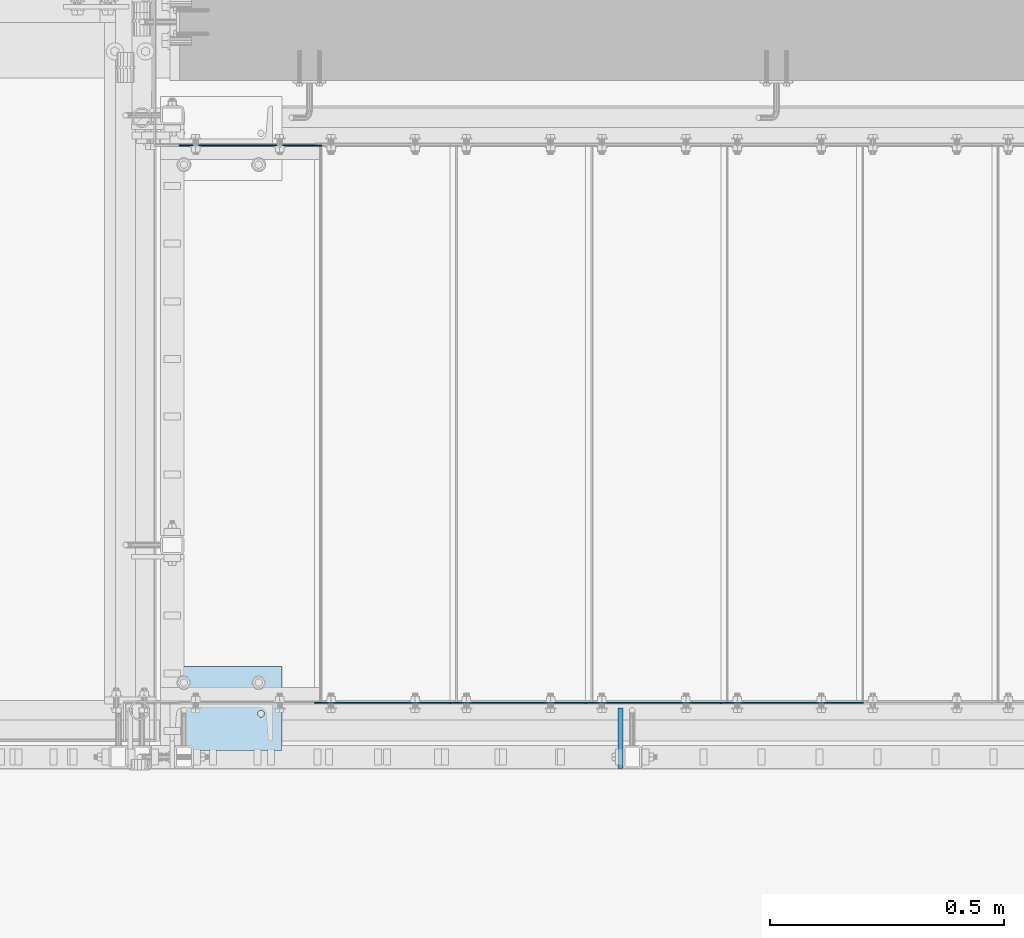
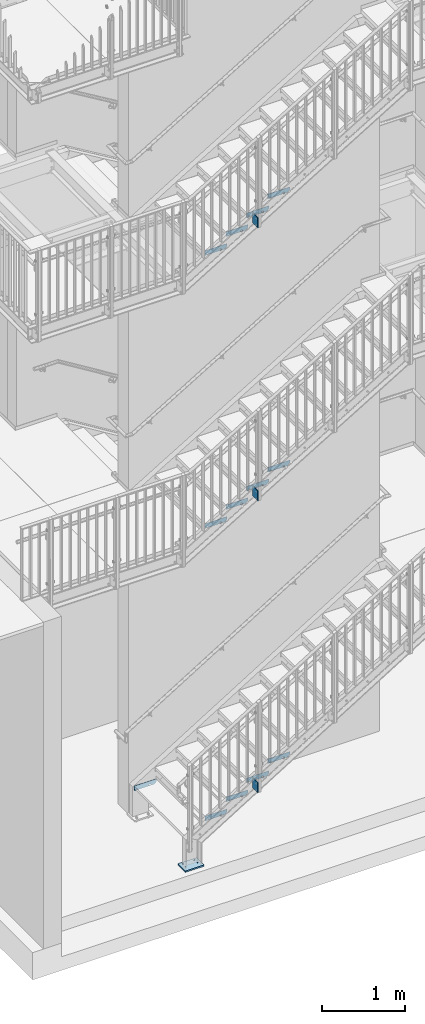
# One storey, part 53 of 410: 17 plates, 36 openings.
"""IFC2X3 building model written with IfcOpenShell, lengths in millimetres."""

from ifc_helpers import new_model, entity, si_unit, converted_unit, point, frame, frame_2d, origin, origin_with_axes, origin_2d_with_axis, place, context, project, spatial, polyline, circle_curve, line_curve, trimmed, segment, composite_curve, circle, outline, extrude, material, layer, layer_set, element, save


model = new_model("IFC2X3")

# Units and contexts
model_context = context("Model", 3, precision=1e-09, world=origin_with_axes())
ifc_project = project(units=[si_unit("LENGTHUNIT", "METRE", prefix="MILLI"), si_unit("AREAUNIT", "SQUARE_METRE"), si_unit("VOLUMEUNIT", "CUBIC_METRE"), converted_unit("PLANEANGLEUNIT", "DEGREE", entity("IfcPlaneAngleMeasure", 0.01745329), si_unit("PLANEANGLEUNIT", "RADIAN"), dimensions=[0, 0, 0, 0, 0, 0, 0])], contexts=[model_context])

# Site, building, storey
site_placement = place(None, origin_with_axes())
site = spatial("IfcSite", under=ifc_project, at=site_placement, Name="mKR Teilneubau & Sanierung BA1 - Ostfildern", CompositionType="ELEMENT")
building_placement = place(site_placement, origin_with_axes())
building = spatial("IfcBuilding", under=site, at=building_placement, Name="Struktur 1", CompositionType="ELEMENT")
storey_placement = place(building_placement, origin_with_axes())
storey = spatial("IfcBuildingStorey", under=building, at=storey_placement, Name="Default Storey", CompositionType="ELEMENT", Elevation=0.0)

# Plate, openings
ifc_material = material(Name="S235JR")
ifc_layer_1 = layer(ifc_material, 3.0)
ifc_layer_set_1 = layer_set([ifc_layer_1], Name="S235JR")
plate_1_placement = place(None, frame((-1415.0, 15522.999999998, 4175.0), z_axis=(0.0, -1.0, 0.0), x_axis=(0.0, 0.0, -1.0)))
plate_1 = element("IfcPlate", 1, at=plate_1_placement, inside=storey, material=ifc_layer_set_1, Name="Grate_Step#3", ObjectType="Grate_Step#3", context=model_context, shape_type="SweptSolid", body=[
    extrude(outline(polyline([(0.0, 0.0), (70.0, 0.0), (70.0, 275.0), (40.0, 305.0), (0.0, 305.0), (0.0, 0.0)])), origin_with_axes(), (0.0, 0.0, 1.0), 3.0),
])
opening_1_placement = place(plate_1_placement, frame((55.0, 215.0, -0.5), z_axis=(0.0, 0.0, 1.0), x_axis=(0.0, 1.0, 0.0)))
element("IfcOpeningElement", 2, at=opening_1_placement, cuts=plate_1, ObjectType="Opening", context=model_context, shape_type="SweptSolid", body=[
    extrude(outline(composite_curve([segment(trimmed(line_curve((-9.5, -7.001), (1.0, 0.0), 19.0), [point((-9.5, -7.001))], [point((9.5, -7.001))], True, "CARTESIAN"), True, "CONTINUOUS"), segment(trimmed(circle_curve(frame_2d((9.5, 0.0), x_axis=(1.0, 0.0)), 7.001), [point((9.5, -7.001))], [point((9.5, 7.001))], True, "CARTESIAN"), True, "CONTINUOUS"), segment(trimmed(line_curve((9.5, 7.001), (-1.0, 0.0), 19.0), [point((9.5, 7.001))], [point((-9.5, 7.001))], True, "CARTESIAN"), True, "CONTINUOUS"), segment(trimmed(circle_curve(frame_2d((-9.5, 0.0), x_axis=(1.0, 0.0)), 7.001), [point((-9.5, 7.001))], [point((-9.5, -7.001))], True, "CARTESIAN"), True, "CONTINUOUS")], self_intersect=False)), origin(), (0.0, 0.0, 1.0), 4.0),
])
opening_2_placement = place(plate_1_placement, frame((55.0, 35.0, -0.5), z_axis=(0.0, 0.0, 1.0), x_axis=(0.0, 1.0, 0.0)))
element("IfcOpeningElement", 3, at=opening_2_placement, cuts=plate_1, ObjectType="Opening", context=model_context, shape_type="SweptSolid", body=[
    extrude(circle(Radius=7.001, at=origin_2d_with_axis()), origin(), (0.0, 0.0, 1.0), 4.0),
])

plate_2_placement = place(None, frame((-1415.0, 15522.999999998, 173.9130435), z_axis=(0.0, -1.0, 0.0), x_axis=(0.0, 0.0, -1.0)))
plate_2 = element("IfcPlate", 4, at=plate_2_placement, inside=storey, material=ifc_layer_set_1, Name="Grate_Step#3", ObjectType="Grate_Step#3", context=model_context, shape_type="SweptSolid", body=[
    extrude(outline(polyline([(0.0, 0.0), (70.0, 0.0), (70.0, 275.0), (40.0, 305.0), (0.0, 305.0), (0.0, 0.0)])), origin_with_axes(), (0.0, 0.0, 1.0), 3.0),
])
opening_3_placement = place(plate_2_placement, frame((55.0, 215.0, -0.5), z_axis=(0.0, 0.0, 1.0), x_axis=(0.0, 1.0, 0.0)))
element("IfcOpeningElement", 5, at=opening_3_placement, cuts=plate_2, ObjectType="Opening", context=model_context, shape_type="SweptSolid", body=[
    extrude(outline(composite_curve([segment(trimmed(line_curve((-9.5, -7.001), (1.0, 0.0), 19.0), [point((-9.5, -7.001))], [point((9.5, -7.001))], True, "CARTESIAN"), True, "CONTINUOUS"), segment(trimmed(circle_curve(frame_2d((9.5, 0.0), x_axis=(1.0, 0.0)), 7.001), [point((9.5, -7.001))], [point((9.5, 7.001))], True, "CARTESIAN"), True, "CONTINUOUS"), segment(trimmed(line_curve((9.5, 7.001), (-1.0, 0.0), 19.0), [point((9.5, 7.001))], [point((-9.5, 7.001))], True, "CARTESIAN"), True, "CONTINUOUS"), segment(trimmed(circle_curve(frame_2d((-9.5, 0.0), x_axis=(1.0, 0.0)), 7.001), [point((-9.5, 7.001))], [point((-9.5, -7.001))], True, "CARTESIAN"), True, "CONTINUOUS")], self_intersect=False)), origin(), (0.0, 0.0, 1.0), 4.0),
])
opening_4_placement = place(plate_2_placement, frame((55.0, 35.0, -0.5), z_axis=(0.0, 0.0, 1.0), x_axis=(0.0, 1.0, 0.0)))
element("IfcOpeningElement", 6, at=opening_4_placement, cuts=plate_2, ObjectType="Opening", context=model_context, shape_type="SweptSolid", body=[
    extrude(circle(Radius=7.001, at=origin_2d_with_axis()), origin(), (0.0, 0.0, 1.0), 4.0),
])

plate_3_placement = place(None, frame((-1705.0, 16716.999999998, -4291.2), z_axis=(0.0, -1.0, 0.0), x_axis=(0.0, 0.0, -1.0)))
plate_3 = element("IfcPlate", 7, at=plate_3_placement, inside=storey, material=ifc_layer_set_1, Name="Grate_Step#2", ObjectType="Grate_Step#2", context=model_context, shape_type="SweptSolid", body=[
    extrude(outline(polyline([(0.0, 0.0), (70.0, 0.0), (70.0, 275.0), (40.0, 305.0), (0.0, 305.0), (0.0, 0.0)])), origin_with_axes(), (0.0, 0.0, 1.0), 3.0),
])
opening_5_placement = place(plate_3_placement, frame((55.0, 35.0, 3.5), z_axis=(0.0, 0.0, -1.0), x_axis=(0.0, 1.0, 0.0)))
element("IfcOpeningElement", 8, at=opening_5_placement, cuts=plate_3, ObjectType="Opening", context=model_context, shape_type="SweptSolid", body=[
    extrude(circle(Radius=7.001, at=origin_2d_with_axis()), origin(), (0.0, 0.0, 1.0), 4.0),
])
opening_6_placement = place(plate_3_placement, frame((55.0, 215.0, 3.5), z_axis=(0.0, 0.0, -1.0), x_axis=(0.0, 1.0, 0.0)))
element("IfcOpeningElement", 9, at=opening_6_placement, cuts=plate_3, ObjectType="Opening", context=model_context, shape_type="SweptSolid", body=[
    extrude(outline(composite_curve([segment(trimmed(line_curve((-9.5, -7.001), (1.0, 0.0), 19.0), [point((-9.5, -7.001))], [point((9.5, -7.001))], True, "CARTESIAN"), True, "CONTINUOUS"), segment(trimmed(circle_curve(frame_2d((9.5, 0.0), x_axis=(1.0, 0.0)), 7.001), [point((9.5, -7.001))], [point((9.5, 7.001))], True, "CARTESIAN"), True, "CONTINUOUS"), segment(trimmed(line_curve((9.5, 7.001), (-1.0, 0.0), 19.0), [point((9.5, 7.001))], [point((-9.5, 7.001))], True, "CARTESIAN"), True, "CONTINUOUS"), segment(trimmed(circle_curve(frame_2d((-9.5, 0.0), x_axis=(1.0, 0.0)), 7.001), [point((-9.5, 7.001))], [point((-9.5, -7.001))], True, "CARTESIAN"), True, "CONTINUOUS")], self_intersect=False)), origin(), (0.0, 0.0, 1.0), 4.0),
])

plate_4_placement = place(None, frame((-1415.0, 15522.999999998, -4112.4), z_axis=(0.0, -1.0, 0.0), x_axis=(0.0, 0.0, -1.0)))
plate_4 = element("IfcPlate", 10, at=plate_4_placement, inside=storey, material=ifc_layer_set_1, Name="Grate_Step#3", ObjectType="Grate_Step#3", context=model_context, shape_type="SweptSolid", body=[
    extrude(outline(polyline([(0.0, 0.0), (70.0, 0.0), (70.0, 275.0), (40.0, 305.0), (0.0, 305.0), (0.0, 0.0)])), origin_with_axes(), (0.0, 0.0, 1.0), 3.0),
])
opening_7_placement = place(plate_4_placement, frame((55.0, 215.0, -0.5), z_axis=(0.0, 0.0, 1.0), x_axis=(0.0, 1.0, 0.0)))
element("IfcOpeningElement", 11, at=opening_7_placement, cuts=plate_4, ObjectType="Opening", context=model_context, shape_type="SweptSolid", body=[
    extrude(outline(composite_curve([segment(trimmed(line_curve((-9.5, -7.001), (1.0, 0.0), 19.0), [point((-9.5, -7.001))], [point((9.5, -7.001))], True, "CARTESIAN"), True, "CONTINUOUS"), segment(trimmed(circle_curve(frame_2d((9.5, 0.0), x_axis=(1.0, 0.0)), 7.001), [point((9.5, -7.001))], [point((9.5, 7.001))], True, "CARTESIAN"), True, "CONTINUOUS"), segment(trimmed(line_curve((9.5, 7.001), (-1.0, 0.0), 19.0), [point((9.5, 7.001))], [point((-9.5, 7.001))], True, "CARTESIAN"), True, "CONTINUOUS"), segment(trimmed(circle_curve(frame_2d((-9.5, 0.0), x_axis=(1.0, 0.0)), 7.001), [point((-9.5, 7.001))], [point((-9.5, -7.001))], True, "CARTESIAN"), True, "CONTINUOUS")], self_intersect=False)), origin(), (0.0, 0.0, 1.0), 4.0),
])
opening_8_placement = place(plate_4_placement, frame((55.0, 35.0, -0.5), z_axis=(0.0, 0.0, 1.0), x_axis=(0.0, 1.0, 0.0)))
element("IfcOpeningElement", 12, at=opening_8_placement, cuts=plate_4, ObjectType="Opening", context=model_context, shape_type="SweptSolid", body=[
    extrude(circle(Radius=7.001, at=origin_2d_with_axis()), origin(), (0.0, 0.0, 1.0), 4.0),
])

plate_5_placement = place(None, frame((-1125.0, 15522.999999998, -3933.6), z_axis=(0.0, -1.0, 0.0), x_axis=(0.0, 0.0, -1.0)))
plate_5 = element("IfcPlate", 13, at=plate_5_placement, inside=storey, material=ifc_layer_set_1, Name="Grate_Step#3", ObjectType="Grate_Step#3", context=model_context, shape_type="SweptSolid", body=[
    extrude(outline(polyline([(0.0, 0.0), (70.0, 0.0), (70.0, 275.0), (40.0, 305.0), (0.0, 305.0), (0.0, 0.0)])), origin_with_axes(), (0.0, 0.0, 1.0), 3.0),
])
opening_9_placement = place(plate_5_placement, frame((55.0, 35.0, -0.5), z_axis=(0.0, 0.0, 1.0), x_axis=(0.0, 1.0, 0.0)))
element("IfcOpeningElement", 14, at=opening_9_placement, cuts=plate_5, ObjectType="Opening", context=model_context, shape_type="SweptSolid", body=[
    extrude(circle(Radius=7.001, at=origin_2d_with_axis()), origin(), (0.0, 0.0, 1.0), 4.0),
])
opening_10_placement = place(plate_5_placement, frame((55.0, 215.0, -0.5), z_axis=(0.0, 0.0, 1.0), x_axis=(0.0, 1.0, 0.0)))
element("IfcOpeningElement", 15, at=opening_10_placement, cuts=plate_5, ObjectType="Opening", context=model_context, shape_type="SweptSolid", body=[
    extrude(outline(composite_curve([segment(trimmed(line_curve((-9.5, -7.001), (1.0, 0.0), 19.0), [point((-9.5, -7.001))], [point((9.5, -7.001))], True, "CARTESIAN"), True, "CONTINUOUS"), segment(trimmed(circle_curve(frame_2d((9.5, 0.0), x_axis=(1.0, 0.0)), 7.001), [point((9.5, -7.001))], [point((9.5, 7.001))], True, "CARTESIAN"), True, "CONTINUOUS"), segment(trimmed(line_curve((9.5, 7.001), (-1.0, 0.0), 19.0), [point((9.5, 7.001))], [point((-9.5, 7.001))], True, "CARTESIAN"), True, "CONTINUOUS"), segment(trimmed(circle_curve(frame_2d((-9.5, 0.0), x_axis=(1.0, 0.0)), 7.001), [point((-9.5, 7.001))], [point((-9.5, -7.001))], True, "CARTESIAN"), True, "CONTINUOUS")], self_intersect=False)), origin(), (0.0, 0.0, 1.0), 4.0),
])

plate_6_placement = place(None, frame((-835.0, 15522.999999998, -3754.8), z_axis=(0.0, -1.0, 0.0), x_axis=(0.0, 0.0, -1.0)))
plate_6 = element("IfcPlate", 16, at=plate_6_placement, inside=storey, material=ifc_layer_set_1, Name="Grate_Step#3", ObjectType="Grate_Step#3", context=model_context, shape_type="SweptSolid", body=[
    extrude(outline(polyline([(0.0, 0.0), (70.0, 0.0), (70.0, 275.0), (40.0, 305.0), (0.0, 305.0), (0.0, 0.0)])), origin_with_axes(), (0.0, 0.0, 1.0), 3.0),
])
opening_11_placement = place(plate_6_placement, frame((55.0, 215.0, -0.5), z_axis=(0.0, 0.0, 1.0), x_axis=(0.0, 1.0, 0.0)))
element("IfcOpeningElement", 17, at=opening_11_placement, cuts=plate_6, ObjectType="Opening", context=model_context, shape_type="SweptSolid", body=[
    extrude(outline(composite_curve([segment(trimmed(line_curve((-9.5, -7.001), (1.0, 0.0), 19.0), [point((-9.5, -7.001))], [point((9.5, -7.001))], True, "CARTESIAN"), True, "CONTINUOUS"), segment(trimmed(circle_curve(frame_2d((9.5, 0.0), x_axis=(1.0, 0.0)), 7.001), [point((9.5, -7.001))], [point((9.5, 7.001))], True, "CARTESIAN"), True, "CONTINUOUS"), segment(trimmed(line_curve((9.5, 7.001), (-1.0, 0.0), 19.0), [point((9.5, 7.001))], [point((-9.5, 7.001))], True, "CARTESIAN"), True, "CONTINUOUS"), segment(trimmed(circle_curve(frame_2d((-9.5, 0.0), x_axis=(1.0, 0.0)), 7.001), [point((-9.5, 7.001))], [point((-9.5, -7.001))], True, "CARTESIAN"), True, "CONTINUOUS")], self_intersect=False)), origin(), (0.0, 0.0, 1.0), 4.0),
])
opening_12_placement = place(plate_6_placement, frame((55.0, 35.0, -0.5), z_axis=(0.0, 0.0, 1.0), x_axis=(0.0, 1.0, 0.0)))
element("IfcOpeningElement", 18, at=opening_12_placement, cuts=plate_6, ObjectType="Opening", context=model_context, shape_type="SweptSolid", body=[
    extrude(circle(Radius=7.001, at=origin_2d_with_axis()), origin(), (0.0, 0.0, 1.0), 4.0),
])

plate_7_placement = place(None, frame((-545.0, 15522.999999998, -3576.0), z_axis=(0.0, -1.0, 0.0), x_axis=(0.0, 0.0, -1.0)))
plate_7 = element("IfcPlate", 19, at=plate_7_placement, inside=storey, material=ifc_layer_set_1, Name="Grate_Step#3", ObjectType="Grate_Step#3", context=model_context, shape_type="SweptSolid", body=[
    extrude(outline(polyline([(0.0, 0.0), (70.0, 0.0), (70.0, 275.0), (40.0, 305.0), (0.0, 305.0), (0.0, 0.0)])), origin_with_axes(), (0.0, 0.0, 1.0), 3.0),
])
opening_13_placement = place(plate_7_placement, frame((55.0, 35.0, -0.5), z_axis=(0.0, 0.0, 1.0), x_axis=(0.0, 1.0, 0.0)))
element("IfcOpeningElement", 20, at=opening_13_placement, cuts=plate_7, ObjectType="Opening", context=model_context, shape_type="SweptSolid", body=[
    extrude(circle(Radius=7.001, at=origin_2d_with_axis()), origin(), (0.0, 0.0, 1.0), 4.0),
])
opening_14_placement = place(plate_7_placement, frame((55.0, 215.0, -0.5), z_axis=(0.0, 0.0, 1.0), x_axis=(0.0, 1.0, 0.0)))
element("IfcOpeningElement", 21, at=opening_14_placement, cuts=plate_7, ObjectType="Opening", context=model_context, shape_type="SweptSolid", body=[
    extrude(outline(composite_curve([segment(trimmed(line_curve((-9.5, -7.001), (1.0, 0.0), 19.0), [point((-9.5, -7.001))], [point((9.5, -7.001))], True, "CARTESIAN"), True, "CONTINUOUS"), segment(trimmed(circle_curve(frame_2d((9.5, 0.0), x_axis=(1.0, 0.0)), 7.001), [point((9.5, -7.001))], [point((9.5, 7.001))], True, "CARTESIAN"), True, "CONTINUOUS"), segment(trimmed(line_curve((9.5, 7.001), (-1.0, 0.0), 19.0), [point((9.5, 7.001))], [point((-9.5, 7.001))], True, "CARTESIAN"), True, "CONTINUOUS"), segment(trimmed(circle_curve(frame_2d((-9.5, 0.0), x_axis=(1.0, 0.0)), 7.001), [point((-9.5, 7.001))], [point((-9.5, -7.001))], True, "CARTESIAN"), True, "CONTINUOUS")], self_intersect=False)), origin(), (0.0, 0.0, 1.0), 4.0),
])

plate_8_placement = place(None, frame((-1125.0, 15522.999999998, 347.826087), z_axis=(0.0, -1.0, 0.0), x_axis=(0.0, 0.0, -1.0)))
plate_8 = element("IfcPlate", 22, at=plate_8_placement, inside=storey, material=ifc_layer_set_1, Name="Grate_Step#3", ObjectType="Grate_Step#3", context=model_context, shape_type="SweptSolid", body=[
    extrude(outline(polyline([(0.0, 0.0), (70.0, 0.0), (70.0, 275.0), (40.0, 305.0), (0.0, 305.0), (0.0, 0.0)])), origin_with_axes(), (0.0, 0.0, 1.0), 3.0),
])
opening_15_placement = place(plate_8_placement, frame((55.0, 35.0, -0.5), z_axis=(0.0, 0.0, 1.0), x_axis=(0.0, 1.0, 0.0)))
element("IfcOpeningElement", 23, at=opening_15_placement, cuts=plate_8, ObjectType="Opening", context=model_context, shape_type="SweptSolid", body=[
    extrude(circle(Radius=7.001, at=origin_2d_with_axis()), origin(), (0.0, 0.0, 1.0), 4.0),
])
opening_16_placement = place(plate_8_placement, frame((55.0, 215.0, -0.5), z_axis=(0.0, 0.0, 1.0), x_axis=(0.0, 1.0, 0.0)))
element("IfcOpeningElement", 24, at=opening_16_placement, cuts=plate_8, ObjectType="Opening", context=model_context, shape_type="SweptSolid", body=[
    extrude(outline(composite_curve([segment(trimmed(line_curve((-9.5, -7.001), (1.0, 0.0), 19.0), [point((-9.5, -7.001))], [point((9.5, -7.001))], True, "CARTESIAN"), True, "CONTINUOUS"), segment(trimmed(circle_curve(frame_2d((9.5, 0.0), x_axis=(1.0, 0.0)), 7.001), [point((9.5, -7.001))], [point((9.5, 7.001))], True, "CARTESIAN"), True, "CONTINUOUS"), segment(trimmed(line_curve((9.5, 7.001), (-1.0, 0.0), 19.0), [point((9.5, 7.001))], [point((-9.5, 7.001))], True, "CARTESIAN"), True, "CONTINUOUS"), segment(trimmed(circle_curve(frame_2d((-9.5, 0.0), x_axis=(1.0, 0.0)), 7.001), [point((-9.5, 7.001))], [point((-9.5, -7.001))], True, "CARTESIAN"), True, "CONTINUOUS")], self_intersect=False)), origin(), (0.0, 0.0, 1.0), 4.0),
])

plate_9_placement = place(None, frame((-835.0, 15522.999999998, 521.7391305), z_axis=(0.0, -1.0, 0.0), x_axis=(0.0, 0.0, -1.0)))
plate_9 = element("IfcPlate", 25, at=plate_9_placement, inside=storey, material=ifc_layer_set_1, Name="Grate_Step#3", ObjectType="Grate_Step#3", context=model_context, shape_type="SweptSolid", body=[
    extrude(outline(polyline([(0.0, 0.0), (70.0, 0.0), (70.0, 275.0), (40.0, 305.0), (0.0, 305.0), (0.0, 0.0)])), origin_with_axes(), (0.0, 0.0, 1.0), 3.0),
])
opening_17_placement = place(plate_9_placement, frame((55.0, 35.0, -0.5), z_axis=(0.0, 0.0, 1.0), x_axis=(0.0, 1.0, 0.0)))
element("IfcOpeningElement", 26, at=opening_17_placement, cuts=plate_9, ObjectType="Opening", context=model_context, shape_type="SweptSolid", body=[
    extrude(circle(Radius=7.001, at=origin_2d_with_axis()), origin(), (0.0, 0.0, 1.0), 4.0),
])
opening_18_placement = place(plate_9_placement, frame((55.0, 215.0, -0.5), z_axis=(0.0, 0.0, 1.0), x_axis=(0.0, 1.0, 0.0)))
element("IfcOpeningElement", 27, at=opening_18_placement, cuts=plate_9, ObjectType="Opening", context=model_context, shape_type="SweptSolid", body=[
    extrude(outline(composite_curve([segment(trimmed(line_curve((-9.5, -7.001), (1.0, 0.0), 19.0), [point((-9.5, -7.001))], [point((9.5, -7.001))], True, "CARTESIAN"), True, "CONTINUOUS"), segment(trimmed(circle_curve(frame_2d((9.5, 0.0), x_axis=(1.0, 0.0)), 7.001), [point((9.5, -7.001))], [point((9.5, 7.001))], True, "CARTESIAN"), True, "CONTINUOUS"), segment(trimmed(line_curve((9.5, 7.001), (-1.0, 0.0), 19.0), [point((9.5, 7.001))], [point((-9.5, 7.001))], True, "CARTESIAN"), True, "CONTINUOUS"), segment(trimmed(circle_curve(frame_2d((-9.5, 0.0), x_axis=(1.0, 0.0)), 7.001), [point((-9.5, 7.001))], [point((-9.5, -7.001))], True, "CARTESIAN"), True, "CONTINUOUS")], self_intersect=False)), origin(), (0.0, 0.0, 1.0), 4.0),
])

plate_10_placement = place(None, frame((-545.0, 15522.999999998, 695.652174), z_axis=(0.0, -1.0, 0.0), x_axis=(0.0, 0.0, -1.0)))
plate_10 = element("IfcPlate", 28, at=plate_10_placement, inside=storey, material=ifc_layer_set_1, Name="Grate_Step#3", ObjectType="Grate_Step#3", context=model_context, shape_type="SweptSolid", body=[
    extrude(outline(polyline([(0.0, 0.0), (70.0, 0.0), (70.0, 275.0), (40.0, 305.0), (0.0, 305.0), (0.0, 0.0)])), origin_with_axes(), (0.0, 0.0, 1.0), 3.0),
])
opening_19_placement = place(plate_10_placement, frame((55.0, 35.0, -0.5), z_axis=(0.0, 0.0, 1.0), x_axis=(0.0, 1.0, 0.0)))
element("IfcOpeningElement", 29, at=opening_19_placement, cuts=plate_10, ObjectType="Opening", context=model_context, shape_type="SweptSolid", body=[
    extrude(circle(Radius=7.001, at=origin_2d_with_axis()), origin(), (0.0, 0.0, 1.0), 4.0),
])
opening_20_placement = place(plate_10_placement, frame((55.0, 215.0, -0.5), z_axis=(0.0, 0.0, 1.0), x_axis=(0.0, 1.0, 0.0)))
element("IfcOpeningElement", 30, at=opening_20_placement, cuts=plate_10, ObjectType="Opening", context=model_context, shape_type="SweptSolid", body=[
    extrude(outline(composite_curve([segment(trimmed(line_curve((-9.5, -7.001), (1.0, 0.0), 19.0), [point((-9.5, -7.001))], [point((9.5, -7.001))], True, "CARTESIAN"), True, "CONTINUOUS"), segment(trimmed(circle_curve(frame_2d((9.5, 0.0), x_axis=(1.0, 0.0)), 7.001), [point((9.5, -7.001))], [point((9.5, 7.001))], True, "CARTESIAN"), True, "CONTINUOUS"), segment(trimmed(line_curve((9.5, 7.001), (-1.0, 0.0), 19.0), [point((9.5, 7.001))], [point((-9.5, 7.001))], True, "CARTESIAN"), True, "CONTINUOUS"), segment(trimmed(circle_curve(frame_2d((-9.5, 0.0), x_axis=(1.0, 0.0)), 7.001), [point((-9.5, 7.001))], [point((-9.5, -7.001))], True, "CARTESIAN"), True, "CONTINUOUS")], self_intersect=False)), origin(), (0.0, 0.0, 1.0), 4.0),
])

plate_11_placement = place(None, frame((-1125.0, 15522.999999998, 4350.0), z_axis=(0.0, -1.0, 0.0), x_axis=(0.0, 0.0, -1.0)))
plate_11 = element("IfcPlate", 31, at=plate_11_placement, inside=storey, material=ifc_layer_set_1, Name="Grate_Step#3", ObjectType="Grate_Step#3", context=model_context, shape_type="SweptSolid", body=[
    extrude(outline(polyline([(0.0, 0.0), (70.0, 0.0), (70.0, 275.0), (40.0, 305.0), (0.0, 305.0), (0.0, 0.0)])), origin_with_axes(), (0.0, 0.0, 1.0), 3.0),
])
opening_21_placement = place(plate_11_placement, frame((55.0, 215.0, -0.5), z_axis=(0.0, 0.0, 1.0), x_axis=(0.0, 1.0, 0.0)))
element("IfcOpeningElement", 32, at=opening_21_placement, cuts=plate_11, ObjectType="Opening", context=model_context, shape_type="SweptSolid", body=[
    extrude(outline(composite_curve([segment(trimmed(line_curve((-9.5, -7.001), (1.0, 0.0), 19.0), [point((-9.5, -7.001))], [point((9.5, -7.001))], True, "CARTESIAN"), True, "CONTINUOUS"), segment(trimmed(circle_curve(frame_2d((9.5, 0.0), x_axis=(1.0, 0.0)), 7.001), [point((9.5, -7.001))], [point((9.5, 7.001))], True, "CARTESIAN"), True, "CONTINUOUS"), segment(trimmed(line_curve((9.5, 7.001), (-1.0, 0.0), 19.0), [point((9.5, 7.001))], [point((-9.5, 7.001))], True, "CARTESIAN"), True, "CONTINUOUS"), segment(trimmed(circle_curve(frame_2d((-9.5, 0.0), x_axis=(1.0, 0.0)), 7.001), [point((-9.5, 7.001))], [point((-9.5, -7.001))], True, "CARTESIAN"), True, "CONTINUOUS")], self_intersect=False)), origin(), (0.0, 0.0, 1.0), 4.0),
])
opening_22_placement = place(plate_11_placement, frame((55.0, 35.0, -0.5), z_axis=(0.0, 0.0, 1.0), x_axis=(0.0, 1.0, 0.0)))
element("IfcOpeningElement", 33, at=opening_22_placement, cuts=plate_11, ObjectType="Opening", context=model_context, shape_type="SweptSolid", body=[
    extrude(circle(Radius=7.001, at=origin_2d_with_axis()), origin(), (0.0, 0.0, 1.0), 4.0),
])

plate_12_placement = place(None, frame((-835.0, 15522.999999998, 4525.0), z_axis=(0.0, -1.0, 0.0), x_axis=(0.0, 0.0, -1.0)))
plate_12 = element("IfcPlate", 34, at=plate_12_placement, inside=storey, material=ifc_layer_set_1, Name="Grate_Step#3", ObjectType="Grate_Step#3", context=model_context, shape_type="SweptSolid", body=[
    extrude(outline(polyline([(0.0, 0.0), (70.0, 0.0), (70.0, 275.0), (40.0, 305.0), (0.0, 305.0), (0.0, 0.0)])), origin_with_axes(), (0.0, 0.0, 1.0), 3.0),
])
opening_23_placement = place(plate_12_placement, frame((55.0, 215.0, -0.5), z_axis=(0.0, 0.0, 1.0), x_axis=(0.0, 1.0, 0.0)))
element("IfcOpeningElement", 35, at=opening_23_placement, cuts=plate_12, ObjectType="Opening", context=model_context, shape_type="SweptSolid", body=[
    extrude(outline(composite_curve([segment(trimmed(line_curve((-9.5, -7.001), (1.0, 0.0), 19.0), [point((-9.5, -7.001))], [point((9.5, -7.001))], True, "CARTESIAN"), True, "CONTINUOUS"), segment(trimmed(circle_curve(frame_2d((9.5, 0.0), x_axis=(1.0, 0.0)), 7.001), [point((9.5, -7.001))], [point((9.5, 7.001))], True, "CARTESIAN"), True, "CONTINUOUS"), segment(trimmed(line_curve((9.5, 7.001), (-1.0, 0.0), 19.0), [point((9.5, 7.001))], [point((-9.5, 7.001))], True, "CARTESIAN"), True, "CONTINUOUS"), segment(trimmed(circle_curve(frame_2d((-9.5, 0.0), x_axis=(1.0, 0.0)), 7.001), [point((-9.5, 7.001))], [point((-9.5, -7.001))], True, "CARTESIAN"), True, "CONTINUOUS")], self_intersect=False)), origin(), (0.0, 0.0, 1.0), 4.0),
])
opening_24_placement = place(plate_12_placement, frame((55.0, 35.0, -0.5), z_axis=(0.0, 0.0, 1.0), x_axis=(0.0, 1.0, 0.0)))
element("IfcOpeningElement", 36, at=opening_24_placement, cuts=plate_12, ObjectType="Opening", context=model_context, shape_type="SweptSolid", body=[
    extrude(circle(Radius=7.001, at=origin_2d_with_axis()), origin(), (0.0, 0.0, 1.0), 4.0),
])

plate_13_placement = place(None, frame((-545.0, 15522.999999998, 4700.0), z_axis=(0.0, -1.0, 0.0), x_axis=(0.0, 0.0, -1.0)))
plate_13 = element("IfcPlate", 37, at=plate_13_placement, inside=storey, material=ifc_layer_set_1, Name="Grate_Step#3", ObjectType="Grate_Step#3", context=model_context, shape_type="SweptSolid", body=[
    extrude(outline(polyline([(0.0, 0.0), (70.0, 0.0), (70.0, 275.0), (40.0, 305.0), (0.0, 305.0), (0.0, 0.0)])), origin_with_axes(), (0.0, 0.0, 1.0), 3.0),
])
opening_25_placement = place(plate_13_placement, frame((55.0, 215.0, -0.5), z_axis=(0.0, 0.0, 1.0), x_axis=(0.0, 1.0, 0.0)))
element("IfcOpeningElement", 38, at=opening_25_placement, cuts=plate_13, ObjectType="Opening", context=model_context, shape_type="SweptSolid", body=[
    extrude(outline(composite_curve([segment(trimmed(line_curve((-9.5, -7.001), (1.0, 0.0), 19.0), [point((-9.5, -7.001))], [point((9.5, -7.001))], True, "CARTESIAN"), True, "CONTINUOUS"), segment(trimmed(circle_curve(frame_2d((9.5, 0.0), x_axis=(1.0, 0.0)), 7.001), [point((9.5, -7.001))], [point((9.5, 7.001))], True, "CARTESIAN"), True, "CONTINUOUS"), segment(trimmed(line_curve((9.5, 7.001), (-1.0, 0.0), 19.0), [point((9.5, 7.001))], [point((-9.5, 7.001))], True, "CARTESIAN"), True, "CONTINUOUS"), segment(trimmed(circle_curve(frame_2d((-9.5, 0.0), x_axis=(1.0, 0.0)), 7.001), [point((-9.5, 7.001))], [point((-9.5, -7.001))], True, "CARTESIAN"), True, "CONTINUOUS")], self_intersect=False)), origin(), (0.0, 0.0, 1.0), 4.0),
])
opening_26_placement = place(plate_13_placement, frame((55.0, 35.0, -0.5), z_axis=(0.0, 0.0, 1.0), x_axis=(0.0, 1.0, 0.0)))
element("IfcOpeningElement", 39, at=opening_26_placement, cuts=plate_13, ObjectType="Opening", context=model_context, shape_type="SweptSolid", body=[
    extrude(circle(Radius=7.001, at=origin_2d_with_axis()), origin(), (0.0, 0.0, 1.0), 4.0),
])

ifc_layer_2 = layer(ifc_material, 10.0)
ifc_layer_set_2 = layer_set([ifc_layer_2], Name="S235JR")
plate_14_placement = place(None, frame((-754.998531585, 15445.999999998, 4441.782999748), z_axis=(-1.0, 0.0, 0.0), x_axis=(0.0, -1.0, 0.0)))
plate_14 = element("IfcPlate", 40, at=plate_14_placement, inside=storey, material=ifc_layer_set_2, Name="-", ObjectType="-", context=model_context, shape_type="SweptSolid", body=[
    extrude(outline(polyline([(-65.0, -75.0), (65.0, -75.0), (65.0, 75.0), (-65.0, 75.0), (-65.0, -75.0)])), origin_with_axes(), (0.0, 0.0, 1.0), 10.0),
])
opening_27_placement = place(plate_14_placement, frame((40.0, 0.0, -0.5), z_axis=(0.0, 0.0, 1.0), x_axis=(1.0, 0.0, 0.0)))
element("IfcOpeningElement", 41, at=opening_27_placement, cuts=plate_14, ObjectType="Opening", context=model_context, shape_type="SweptSolid", body=[
    extrude(circle(Radius=7.001, at=frame_2d((0.0, 50.0), x_axis=(1.0, 0.0))), origin(), (0.0, 0.0, 1.0), 11.0),
])
opening_28_placement = place(plate_14_placement, frame((40.0, 0.0, -0.5), z_axis=(0.0, 0.0, 1.0), x_axis=(1.0, 0.0, 0.0)))
element("IfcOpeningElement", 42, at=opening_28_placement, cuts=plate_14, ObjectType="Opening", context=model_context, shape_type="SweptSolid", body=[
    extrude(circle(Radius=7.001, at=frame_2d((0.0, -50.0), x_axis=(1.0, 0.0))), origin(), (0.0, 0.0, 1.0), 11.0),
])

plate_15_placement = place(None, frame((-754.998531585, 15445.999999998, 438.453547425), z_axis=(-1.0, 0.0, 0.0), x_axis=(0.0, -1.0, 0.0)))
plate_15 = element("IfcPlate", 43, at=plate_15_placement, inside=storey, material=ifc_layer_set_2, Name="-", ObjectType="-", context=model_context, shape_type="SweptSolid", body=[
    extrude(outline(polyline([(-65.0, -75.0), (65.0, -75.0), (65.0, 75.0), (-65.0, 75.0), (-65.0, -75.0)])), origin_with_axes(), (0.0, 0.0, 1.0), 10.0),
])
opening_29_placement = place(plate_15_placement, frame((40.0, 0.0, -0.5), z_axis=(0.0, 0.0, 1.0), x_axis=(1.0, 0.0, 0.0)))
element("IfcOpeningElement", 44, at=opening_29_placement, cuts=plate_15, ObjectType="Opening", context=model_context, shape_type="SweptSolid", body=[
    extrude(circle(Radius=7.001, at=frame_2d((0.0, 50.0), x_axis=(1.0, 0.0))), origin(), (0.0, 0.0, 1.0), 11.0),
])
opening_30_placement = place(plate_15_placement, frame((40.0, 0.0, -0.5), z_axis=(0.0, 0.0, 1.0), x_axis=(1.0, 0.0, 0.0)))
element("IfcOpeningElement", 45, at=opening_30_placement, cuts=plate_15, ObjectType="Opening", context=model_context, shape_type="SweptSolid", body=[
    extrude(circle(Radius=7.001, at=frame_2d((0.0, -50.0), x_axis=(1.0, 0.0))), origin(), (0.0, 0.0, 1.0), 11.0),
])

plate_16_placement = place(None, frame((-754.998531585, 15445.999999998, -3837.784825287), z_axis=(-1.0, 0.0, 0.0), x_axis=(0.0, -1.0, 0.0)))
plate_16 = element("IfcPlate", 46, at=plate_16_placement, inside=storey, material=ifc_layer_set_2, Name="-", ObjectType="-", context=model_context, shape_type="SweptSolid", body=[
    extrude(outline(polyline([(-65.0, -75.0), (65.0, -75.0), (65.0, 75.0), (-65.0, 75.0), (-65.0, -75.0)])), origin_with_axes(), (0.0, 0.0, 1.0), 10.0),
])
opening_31_placement = place(plate_16_placement, frame((40.0, 0.0, -0.5), z_axis=(0.0, 0.0, 1.0), x_axis=(1.0, 0.0, 0.0)))
element("IfcOpeningElement", 47, at=opening_31_placement, cuts=plate_16, ObjectType="Opening", context=model_context, shape_type="SweptSolid", body=[
    extrude(circle(Radius=7.001, at=frame_2d((0.0, 50.0), x_axis=(1.0, 0.0))), origin(), (0.0, 0.0, 1.0), 11.0),
])
opening_32_placement = place(plate_16_placement, frame((40.0, 0.0, -0.5), z_axis=(0.0, 0.0, 1.0), x_axis=(1.0, 0.0, 0.0)))
element("IfcOpeningElement", 48, at=opening_32_placement, cuts=plate_16, ObjectType="Opening", context=model_context, shape_type="SweptSolid", body=[
    extrude(circle(Radius=7.001, at=frame_2d((0.0, -50.0), x_axis=(1.0, 0.0))), origin(), (0.0, 0.0, 1.0), 11.0),
])

ifc_layer_3 = layer(ifc_material, 20.0)
ifc_layer_set_3 = layer_set([ifc_layer_3], Name="S235JR")
plate_17_placement = place(None, frame((-1485.0, 15599.999999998, -4740.0), z_axis=(0.0, 0.0, -1.0), x_axis=(0.0, -1.0, 0.0)))
plate_17 = element("IfcPlate", 49, at=plate_17_placement, inside=storey, material=ifc_layer_set_3, Name="Baseplate", ObjectType="Baseplate", context=model_context, shape_type="SweptSolid", body=[
    extrude(outline(polyline([(0.0, 0.0), (180.0, 0.0), (180.0, 260.0), (0.0, 260.0), (0.0, 0.0)])), origin_with_axes(), (0.0, 0.0, 1.0), 20.0),
])
opening_33_placement = place(plate_17_placement, frame((101.5, 215.0, 20.5), z_axis=(0.0, 0.0, -1.0), x_axis=(0.0, 1.0, 0.0)))
element("IfcOpeningElement", 50, at=opening_33_placement, cuts=plate_17, ObjectType="Opening", context=model_context, shape_type="SweptSolid", body=[
    extrude(circle(Radius=7.001, at=origin_2d_with_axis()), origin(), (0.0, 0.0, 1.0), 21.0),
])
opening_34_placement = place(plate_17_placement, frame((101.5, 45.0, 20.5), z_axis=(0.0, 0.0, -1.0), x_axis=(0.0, 1.0, 0.0)))
element("IfcOpeningElement", 51, at=opening_34_placement, cuts=plate_17, ObjectType="Opening", context=model_context, shape_type="SweptSolid", body=[
    extrude(circle(Radius=7.001, at=origin_2d_with_axis()), origin(), (0.0, 0.0, 1.0), 21.0),
])
opening_35_placement = place(plate_17_placement, frame((34.5, 130.0, 20.5), z_axis=(0.0, 0.0, -1.0), x_axis=(1.0, 0.0, 0.0)))
element("IfcOpeningElement", 52, at=opening_35_placement, cuts=plate_17, ObjectType="Opening", context=model_context, shape_type="SweptSolid", body=[
    extrude(circle(Radius=9.001, at=frame_2d((0.0, 80.0), x_axis=(1.0, 0.0))), origin(), (0.0, 0.0, 1.0), 21.0),
])
opening_36_placement = place(plate_17_placement, frame((34.5, 130.0, 20.5), z_axis=(0.0, 0.0, -1.0), x_axis=(1.0, 0.0, 0.0)))
element("IfcOpeningElement", 53, at=opening_36_placement, cuts=plate_17, ObjectType="Opening", context=model_context, shape_type="SweptSolid", body=[
    extrude(circle(Radius=9.001, at=frame_2d((0.0, -80.0), x_axis=(1.0, 0.0))), origin(), (0.0, 0.0, 1.0), 21.0),
])

save(model, "model.ifc")
